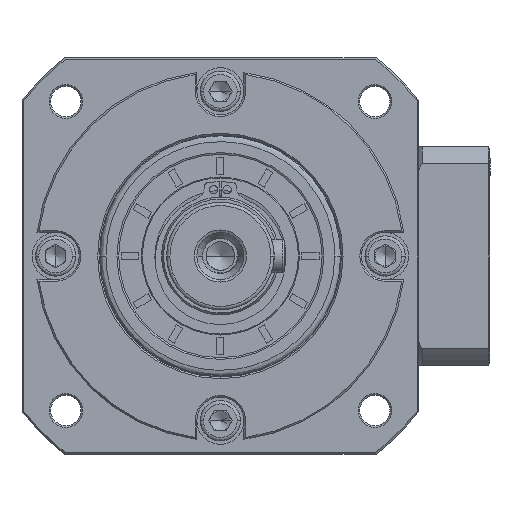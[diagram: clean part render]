
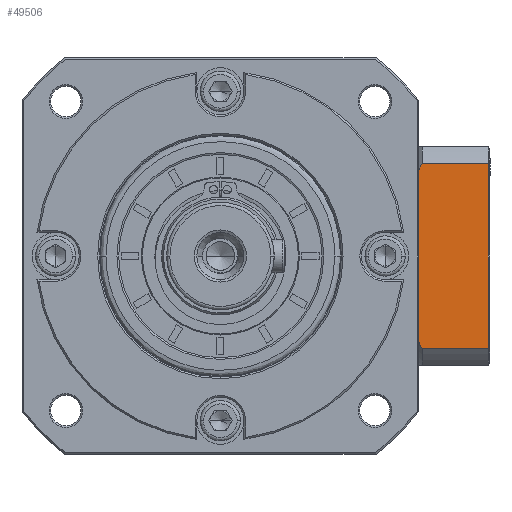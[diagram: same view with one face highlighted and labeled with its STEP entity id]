
A CAD part, left-side view. The second image highlights one B-rep face of the part: STEP entity #49506.
In plain terms, the highlighted planar face has unit normal (-1, 0, 0).
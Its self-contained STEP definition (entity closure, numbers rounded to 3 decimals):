
#312 = EDGE_CURVE ( 'NONE', #71042, #109260, #49503, .T. ) ;
#6239 = VERTEX_POINT ( 'NONE', #156951 ) ;
#11436 = VECTOR ( 'NONE', #73273, 1000. ) ;
#11898 = LINE ( 'NONE', #49806, #115510 ) ;
#22412 = CARTESIAN_POINT ( 'NONE',  ( -68.696, -83.652, -78.018 ) ) ;
#24928 = CARTESIAN_POINT ( 'NONE',  ( -68.696, -85.749, -109.008 ) ) ;
#25683 = DIRECTION ( 'NONE',  ( 0., 1., 0. ) ) ;
#31300 = VERTEX_POINT ( 'NONE', #90701 ) ;
#38546 = CARTESIAN_POINT ( 'NONE',  ( -68.696, -83.652, -103.999 ) ) ;
#38993 = CARTESIAN_POINT ( 'NONE',  ( -68.696, -111.352, -123.508 ) ) ;
#41052 = VECTOR ( 'NONE', #25683, 1000. ) ;
#44578 = VECTOR ( 'NONE', #111645, 1000. ) ;
#46114 = EDGE_CURVE ( 'NONE', #171302, #109865, #111148, .T. ) ;
#48708 = VECTOR ( 'NONE', #103392, 1000. ) ;
#49503 = LINE ( 'NONE', #149699, #117178 ) ;
#49506 = ADVANCED_FACE ( 'NONE', ( #164823 ), #160199, .F. ) ;
#49797 = ORIENTED_EDGE ( 'NONE', *, *, #129266, .F. ) ;
#49806 = CARTESIAN_POINT ( 'NONE',  ( -68.696, -83.652, -103.999 ) ) ;
#50285 = CARTESIAN_POINT ( 'NONE',  ( -68.696, -84.601, -75.462 ) ) ;
#50325 = VERTEX_POINT ( 'NONE', #107898 ) ;
#51567 = CARTESIAN_POINT ( 'NONE',  ( -68.696, -91.152, -118.394 ) ) ;
#52609 = DIRECTION ( 'NONE',  ( 0., 1., 0. ) ) ;
#55145 = DIRECTION ( 'NONE',  ( 0., -1., 0. ) ) ;
#59114 = CARTESIAN_POINT ( 'NONE',  ( -68.696, -110.852, -123.508 ) ) ;
#61933 = CARTESIAN_POINT ( 'NONE',  ( -68.696, -83.652, -78.018 ) ) ;
#63384 = DIRECTION ( 'NONE',  ( 0., 1., 0. ) ) ;
#63846 = CARTESIAN_POINT ( 'NONE',  ( -68.696, -88.288, -68.231 ) ) ;
#70859 = CARTESIAN_POINT ( 'NONE',  ( -68.696, -69.152, -123.508 ) ) ;
#71042 = VERTEX_POINT ( 'NONE', #75323 ) ;
#71502 = EDGE_CURVE ( 'NONE', #88381, #71042, #141774, .T. ) ;
#73273 = DIRECTION ( 'NONE',  ( 0., 0., -1. ) ) ;
#75323 = CARTESIAN_POINT ( 'NONE',  ( -68.696, -91.152, -63.622 ) ) ;
#76303 = LINE ( 'NONE', #70859, #44578 ) ;
#77495 = CARTESIAN_POINT ( 'NONE',  ( -68.696, -91.152, -63.622 ) ) ;
#83907 = ORIENTED_EDGE ( 'NONE', *, *, #46114, .F. ) ;
#84746 = LINE ( 'NONE', #22412, #48708 ) ;
#88381 = VERTEX_POINT ( 'NONE', #61933 ) ;
#90701 = CARTESIAN_POINT ( 'NONE',  ( -68.696, -69.152, -78.018 ) ) ;
#92094 = CARTESIAN_POINT ( 'NONE',  ( -68.696, -110.852, -63.622 ) ) ;
#99675 = ORIENTED_EDGE ( 'NONE', *, *, #312, .F. ) ;
#103392 = DIRECTION ( 'NONE',  ( 0., -1., 0. ) ) ;
#105941 = CARTESIAN_POINT ( 'NONE',  ( -68.696, -88.288, -113.786 ) ) ;
#107898 = CARTESIAN_POINT ( 'NONE',  ( -68.696, -83.652, -103.999 ) ) ;
#109260 = VERTEX_POINT ( 'NONE', #92094 ) ;
#109261 = EDGE_LOOP ( 'NONE', ( #154286, #99675, #155619, #165996, #124121, #115219, #49797, #83907 ) ) ;
#109865 = VERTEX_POINT ( 'NONE', #163382 ) ;
#111148 = LINE ( 'NONE', #146890, #41052 ) ;
#111645 = DIRECTION ( 'NONE',  ( 0., 0., 1. ) ) ;
#112443 = EDGE_CURVE ( 'NONE', #31300, #88381, #84746, .T. ) ;
#115027 = LINE ( 'NONE', #59114, #11436 ) ;
#115219 = ORIENTED_EDGE ( 'NONE', *, *, #127505, .F. ) ;
#115510 = VECTOR ( 'NONE', #63384, 1000. ) ;
#116635 = EDGE_CURVE ( 'NONE', #6239, #31300, #76303, .T. ) ;
#117178 = VECTOR ( 'NONE', #55145, 1000. ) ;
#117833 = AXIS2_PLACEMENT_3D ( 'NONE', #38993, #133541, #52609 ) ;
#119532 = CARTESIAN_POINT ( 'NONE',  ( -68.696, -84.601, -106.555 ) ) ;
#123766 = CARTESIAN_POINT ( 'NONE',  ( -68.696, -110.852, -118.394 ) ) ;
#124121 = ORIENTED_EDGE ( 'NONE', *, *, #116635, .F. ) ;
#127505 = EDGE_CURVE ( 'NONE', #50325, #6239, #11898, .T. ) ;
#129266 = EDGE_CURVE ( 'NONE', #109865, #50325, #143459, .T. ) ;
#131256 = CARTESIAN_POINT ( 'NONE',  ( -68.696, -83.652, -78.018 ) ) ;
#131953 = CARTESIAN_POINT ( 'NONE',  ( -68.696, -89.681, -116.111 ) ) ;
#132568 = EDGE_CURVE ( 'NONE', #109260, #171302, #115027, .T. ) ;
#133541 = DIRECTION ( 'NONE',  ( 1., 0., 0. ) ) ;
#141774 = B_SPLINE_CURVE_WITH_KNOTS ( 'NONE', 3,
 ( #131256, #50285, #144836, #63846, #158482, #77495 ),
 .UNSPECIFIED., .F., .F.,
 ( 4, 2, 4 ),
 ( 0., 0.008, 0.016 ),
 .UNSPECIFIED. ) ;
#143459 = B_SPLINE_CURVE_WITH_KNOTS ( 'NONE', 3,
 ( #51567, #131953, #105941, #24928, #119532, #38546 ),
 .UNSPECIFIED., .F., .F.,
 ( 4, 2, 4 ),
 ( 0., 0.008, 0.016 ),
 .UNSPECIFIED. ) ;
#144836 = CARTESIAN_POINT ( 'NONE',  ( -68.696, -85.749, -73.009 ) ) ;
#146890 = CARTESIAN_POINT ( 'NONE',  ( -68.696, -111.352, -118.394 ) ) ;
#149699 = CARTESIAN_POINT ( 'NONE',  ( -68.696, -111.352, -63.622 ) ) ;
#154286 = ORIENTED_EDGE ( 'NONE', *, *, #132568, .F. ) ;
#155619 = ORIENTED_EDGE ( 'NONE', *, *, #71502, .F. ) ;
#156951 = CARTESIAN_POINT ( 'NONE',  ( -68.696, -69.152, -103.999 ) ) ;
#158482 = CARTESIAN_POINT ( 'NONE',  ( -68.696, -89.681, -65.906 ) ) ;
#160199 = PLANE ( 'NONE',  #117833 ) ;
#163382 = CARTESIAN_POINT ( 'NONE',  ( -68.696, -91.152, -118.394 ) ) ;
#164823 = FACE_OUTER_BOUND ( 'NONE', #109261, .T. ) ;
#165996 = ORIENTED_EDGE ( 'NONE', *, *, #112443, .F. ) ;
#171302 = VERTEX_POINT ( 'NONE', #123766 ) ;
